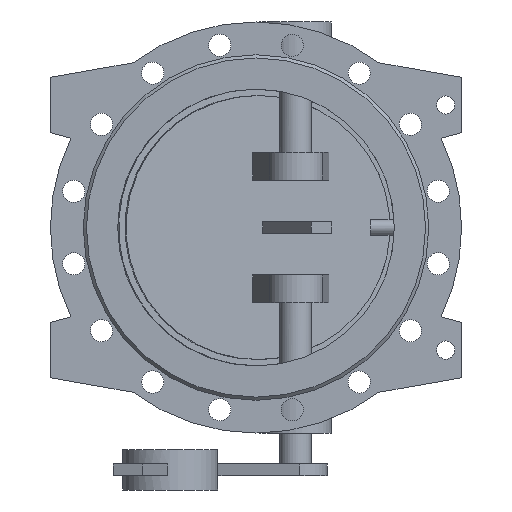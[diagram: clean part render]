
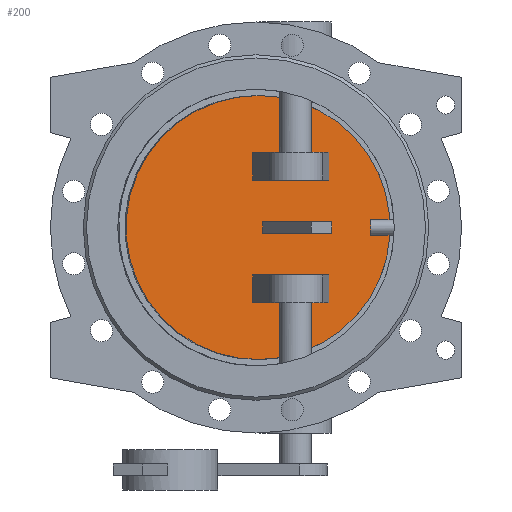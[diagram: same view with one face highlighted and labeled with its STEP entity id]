
A CAD part, front view. The second image highlights one B-rep face of the part: STEP entity #200.
In plain terms, the highlighted planar face has unit normal (0.131, -0.991, 0).
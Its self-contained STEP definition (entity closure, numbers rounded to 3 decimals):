
#200=ADVANCED_FACE('',(#1366,#1368,#1370,#1372),#1374,.T.);
#1366=FACE_BOUND('',#1367,.T.);
#1367=EDGE_LOOP('',(#2561));
#1368=FACE_BOUND('',#1369,.T.);
#1369=EDGE_LOOP('',(#2562,#2563,#2564,#2565));
#1370=FACE_BOUND('',#1371,.T.);
#1371=EDGE_LOOP('',(#2566,#2567,#2568,#2569));
#1372=FACE_BOUND('',#1373,.T.);
#1373=EDGE_LOOP('',(#2570,#2571,#2572,#2573));
#1374=PLANE('',#1375);
#1375=AXIS2_PLACEMENT_3D('',#1376,#1377,#1378);
#1376=CARTESIAN_POINT('',(-1.272,9.66,0.));
#1377=DIRECTION('',(0.131,-0.991,0.));
#1378=DIRECTION('',(0.,0.,-1.));
#2561=ORIENTED_EDGE('',*,*,#3072,.T.);
#2562=ORIENTED_EDGE('',*,*,#3076,.F.);
#2563=ORIENTED_EDGE('',*,*,#3077,.F.);
#2564=ORIENTED_EDGE('',*,*,#3078,.F.);
#2565=ORIENTED_EDGE('',*,*,#3079,.F.);
#2566=ORIENTED_EDGE('',*,*,#3080,.F.);
#2567=ORIENTED_EDGE('',*,*,#3081,.F.);
#2568=ORIENTED_EDGE('',*,*,#3082,.F.);
#2569=ORIENTED_EDGE('',*,*,#3083,.F.);
#2570=ORIENTED_EDGE('',*,*,#3084,.F.);
#2571=ORIENTED_EDGE('',*,*,#3085,.F.);
#2572=ORIENTED_EDGE('',*,*,#3086,.F.);
#2573=ORIENTED_EDGE('',*,*,#3087,.F.);
#3072=EDGE_CURVE('',#3361,#3361,#3362,.T.);
#3076=EDGE_CURVE('',#3369,#3370,#3371,.T.);
#3077=EDGE_CURVE('',#3372,#3369,#3373,.F.);
#3078=EDGE_CURVE('',#3374,#3372,#3375,.T.);
#3079=EDGE_CURVE('',#3370,#3374,#3376,.T.);
#3080=EDGE_CURVE('',#3377,#3378,#3379,.F.);
#3081=EDGE_CURVE('',#3380,#3377,#3381,.T.);
#3082=EDGE_CURVE('',#3382,#3380,#3383,.T.);
#3083=EDGE_CURVE('',#3378,#3382,#3384,.T.);
#3084=EDGE_CURVE('',#3385,#3386,#3387,.T.);
#3085=EDGE_CURVE('',#3388,#3385,#3389,.F.);
#3086=EDGE_CURVE('',#3390,#3388,#3391,.F.);
#3087=EDGE_CURVE('',#3386,#3390,#3392,.F.);
#3361=VERTEX_POINT('',#4503);
#3362=B_SPLINE_CURVE_WITH_KNOTS('',3,
(#4504,#4505,#4506,#4507,#4508,#4509,#4510,#4511,#4512,#4513,#4514,#4515,#4516,#4517,
#4518,#4519,#4520,#4521,#4522,#4523,#4524,#4525,#4526,#4527,#4528,#4529,#4530,#4531,
#4532,#4533,#4534,#4535,#4536,#4537,#4538,#4539,#4540,#4541,#4542,#4543,#4544,#4545,
#4546,#4547,#4548,#4549,#4550,#4551,#4552,#4553,#4554),
.UNSPECIFIED.,.T.,.F.,
(4,1,1,1,1,1,1,1,1,1,1,1,1,1,1,1,1,1,1,1,1,1,1,1,1,1,1,1,1,1,1,1,1,1,1,1,1,1,1,1,
1,1,1,1,1,1,1,1,4),
(0.,0.021,0.042,0.063,0.084,
0.105,0.126,0.147,0.168,0.189,
0.211,0.232,0.253,0.274,0.295,
0.316,0.337,0.358,0.379,0.4,
0.421,0.442,0.463,0.484,0.505,
0.526,0.548,0.569,0.59,0.611,
0.632,0.653,0.674,0.695,0.716,
0.737,0.758,0.779,0.8,0.821,
0.843,0.864,0.885,0.906,0.927,
0.948,0.969,0.986,1.),
.UNSPECIFIED.);
#3369=VERTEX_POINT('',#4617);
#3370=VERTEX_POINT('',#4618);
#3371=LINE('',#4619,#4620);
#3372=VERTEX_POINT('',#4622);
#3373=LINE('',#4623,#4624);
#3374=VERTEX_POINT('',#4626);
#3375=LINE('',#4627,#4628);
#3376=LINE('',#4630,#4631);
#3377=VERTEX_POINT('',#4633);
#3378=VERTEX_POINT('',#4634);
#3379=LINE('',#4635,#4636);
#3380=VERTEX_POINT('',#4638);
#3381=LINE('',#4639,#4640);
#3382=VERTEX_POINT('',#4642);
#3383=LINE('',#4643,#4644);
#3384=LINE('',#4646,#4647);
#3385=VERTEX_POINT('',#4649);
#3386=VERTEX_POINT('',#4650);
#3387=LINE('',#4651,#4652);
#3388=VERTEX_POINT('',#4654);
#3389=LINE('',#4655,#4656);
#3390=VERTEX_POINT('',#4658);
#3391=LINE('',#4659,#4660);
#3392=LINE('',#4662,#4663);
#4503=CARTESIAN_POINT('',(2.611,10.171,167.));
#4504=CARTESIAN_POINT('',(2.611,10.171,167.));
#4505=CARTESIAN_POINT('',(-4.724,9.205,167.));
#4506=CARTESIAN_POINT('',(-19.411,7.272,166.032));
#4507=CARTESIAN_POINT('',(-41.088,4.418,161.691));
#4508=CARTESIAN_POINT('',(-62.035,1.66,154.521));
#4509=CARTESIAN_POINT('',(-81.869,-0.951,144.642));
#4510=CARTESIAN_POINT('',(-100.223,-3.367,132.235));
#4511=CARTESIAN_POINT('',(-116.783,-5.547,117.513));
#4512=CARTESIAN_POINT('',(-131.255,-7.453,100.733));
#4513=CARTESIAN_POINT('',(-143.386,-9.05,82.188));
#4514=CARTESIAN_POINT('',(-152.963,-10.311,62.202));
#4515=CARTESIAN_POINT('',(-159.817,-11.213,41.125));
#4516=CARTESIAN_POINT('',(-163.828,-11.741,19.328));
#4517=CARTESIAN_POINT('',(-164.923,-11.885,-2.809));
#4518=CARTESIAN_POINT('',(-163.086,-11.643,-24.895));
#4519=CARTESIAN_POINT('',(-158.347,-11.019,-46.543));
#4520=CARTESIAN_POINT('',(-150.792,-10.025,-67.374));
#4521=CARTESIAN_POINT('',(-140.554,-8.677,-87.024));
#4522=CARTESIAN_POINT('',(-127.812,-6.999,-105.148));
#4523=CARTESIAN_POINT('',(-112.791,-5.022,-121.432));
#4524=CARTESIAN_POINT('',(-95.754,-2.779,-135.59));
#4525=CARTESIAN_POINT('',(-76.999,-0.31,-147.376));
#4526=CARTESIAN_POINT('',(-56.853,2.343,-156.586));
#4527=CARTESIAN_POINT('',(-35.669,5.132,-163.058));
#4528=CARTESIAN_POINT('',(-13.816,8.009,-166.681));
#4529=CARTESIAN_POINT('',(8.324,10.923,-167.39));
#4530=CARTESIAN_POINT('',(30.365,13.825,-165.174));
#4531=CARTESIAN_POINT('',(51.922,16.663,-160.07));
#4532=CARTESIAN_POINT('',(72.619,19.388,-152.168));
#4533=CARTESIAN_POINT('',(92.093,21.952,-141.604));
#4534=CARTESIAN_POINT('',(110.004,24.31,-128.563));
#4535=CARTESIAN_POINT('',(126.039,26.421,-113.271));
#4536=CARTESIAN_POINT('',(139.916,28.248,-95.995));
#4537=CARTESIAN_POINT('',(151.392,29.759,-77.036));
#4538=CARTESIAN_POINT('',(160.265,30.927,-56.728));
#4539=CARTESIAN_POINT('',(166.377,31.731,-35.424));
#4540=CARTESIAN_POINT('',(169.623,32.159,-13.499));
#4541=CARTESIAN_POINT('',(169.944,32.201,8.661));
#4542=CARTESIAN_POINT('',(167.335,31.857,30.669));
#4543=CARTESIAN_POINT('',(161.842,31.134,52.138));
#4544=CARTESIAN_POINT('',(153.564,30.044,72.692));
#4545=CARTESIAN_POINT('',(142.645,28.607,91.972));
#4546=CARTESIAN_POINT('',(129.278,26.847,109.639));
#4547=CARTESIAN_POINT('',(113.697,24.796,125.388));
#4548=CARTESIAN_POINT('',(96.18,22.49,138.939));
#4549=CARTESIAN_POINT('',(77.054,19.972,150.047));
#4550=CARTESIAN_POINT('',(56.596,17.278,158.557));
#4551=CARTESIAN_POINT('',(36.422,14.622,163.964));
#4552=CARTESIAN_POINT('',(18.283,12.234,166.532));
#4553=CARTESIAN_POINT('',(7.401,10.802,167.));
#4554=CARTESIAN_POINT('',(2.611,10.171,167.));
#4617=CARTESIAN_POINT('',(82.749,20.722,-7.5));
#4618=CARTESIAN_POINT('',(82.749,20.722,7.5));
#4619=CARTESIAN_POINT('',(82.749,20.722,-7.5));
#4620=VECTOR('',#4621,1.);
#4621=DIRECTION('',(0.,0.,1.));
#4622=CARTESIAN_POINT('',(8.391,10.932,-7.5));
#4623=CARTESIAN_POINT('',(82.749,20.722,-7.5));
#4624=VECTOR('',#4625,1.);
#4625=DIRECTION('',(-0.991,-0.131,0.));
#4626=CARTESIAN_POINT('',(8.391,10.932,7.5));
#4627=CARTESIAN_POINT('',(8.391,10.932,7.5));
#4628=VECTOR('',#4629,1.);
#4629=DIRECTION('',(0.,0.,-1.));
#4630=CARTESIAN_POINT('',(82.749,20.722,7.5));
#4631=VECTOR('',#4632,1.);
#4632=DIRECTION('',(-0.991,-0.131,0.));
#4633=CARTESIAN_POINT('',(-4.154,9.281,-95.));
#4634=CARTESIAN_POINT('',(92.142,21.958,-95.));
#4635=CARTESIAN_POINT('',(92.142,21.958,-95.));
#4636=VECTOR('',#4637,1.);
#4637=DIRECTION('',(-0.991,-0.131,0.));
#4638=CARTESIAN_POINT('',(-4.154,9.281,-60.));
#4639=CARTESIAN_POINT('',(-4.154,9.281,-60.));
#4640=VECTOR('',#4641,1.);
#4641=DIRECTION('',(0.,0.,-1.));
#4642=CARTESIAN_POINT('',(92.142,21.958,-60.));
#4643=CARTESIAN_POINT('',(92.142,21.958,-60.));
#4644=VECTOR('',#4645,1.);
#4645=DIRECTION('',(-0.991,-0.131,0.));
#4646=CARTESIAN_POINT('',(92.142,21.958,-95.));
#4647=VECTOR('',#4648,1.);
#4648=DIRECTION('',(0.,0.,1.));
#4649=CARTESIAN_POINT('',(92.142,21.958,95.));
#4650=CARTESIAN_POINT('',(-4.154,9.281,95.));
#4651=CARTESIAN_POINT('',(92.142,21.958,95.));
#4652=VECTOR('',#4653,1.);
#4653=DIRECTION('',(-0.991,-0.131,0.));
#4654=CARTESIAN_POINT('',(92.142,21.958,60.));
#4655=CARTESIAN_POINT('',(92.142,21.958,95.));
#4656=VECTOR('',#4657,1.);
#4657=DIRECTION('',(0.,0.,-1.));
#4658=CARTESIAN_POINT('',(-4.154,9.281,60.));
#4659=CARTESIAN_POINT('',(92.142,21.958,60.));
#4660=VECTOR('',#4661,1.);
#4661=DIRECTION('',(-0.991,-0.131,0.));
#4662=CARTESIAN_POINT('',(-4.154,9.281,60.));
#4663=VECTOR('',#4664,1.);
#4664=DIRECTION('',(0.,0.,1.));
